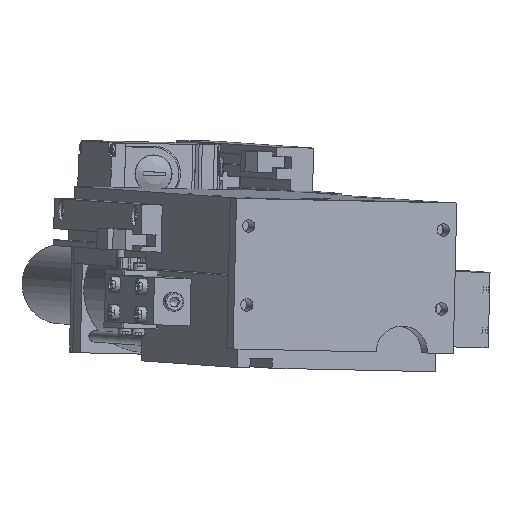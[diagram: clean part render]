
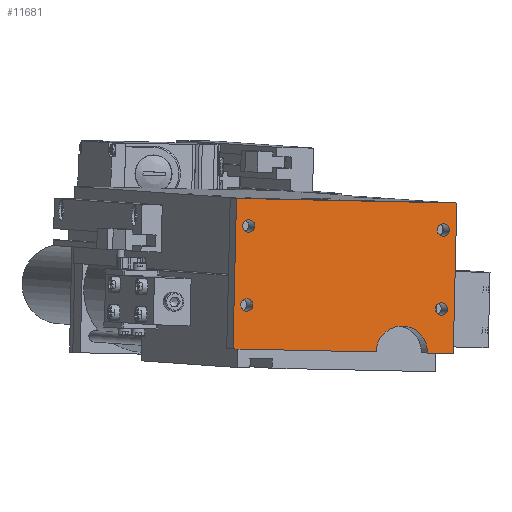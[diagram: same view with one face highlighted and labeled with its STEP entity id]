
A CAD part, front view. The second image highlights one B-rep face of the part: STEP entity #11681.
In plain terms, the highlighted planar face has unit normal (0.222, -0.975, -0.016).
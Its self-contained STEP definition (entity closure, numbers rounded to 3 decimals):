
#11345=CARTESIAN_POINT('',(87.14,-129.59,95.102));
#11346=VERTEX_POINT('',#11345);
#11347=CARTESIAN_POINT('',(83.9,-130.327,95.17));
#11348=DIRECTION('',(-0.222,0.975,0.016));
#11349=DIRECTION('',(0.975,0.222,-0.02));
#11350=AXIS2_PLACEMENT_3D('',#11347,#11348,#11349);
#11351=CIRCLE('',#11350,3.324);
#11352=EDGE_CURVE('',#11346,#11346,#11351,.T.);
#11386=CARTESIAN_POINT('',(-16.195,-153.109,97.268));
#11387=VERTEX_POINT('',#11386);
#11388=CARTESIAN_POINT('',(-19.435,-153.846,97.336));
#11389=DIRECTION('',(-0.222,0.975,0.016));
#11390=DIRECTION('',(0.975,0.222,-0.02));
#11391=AXIS2_PLACEMENT_3D('',#11388,#11389,#11390);
#11392=CIRCLE('',#11391,3.324);
#11393=EDGE_CURVE('',#11387,#11387,#11392,.T.);
#11443=CARTESIAN_POINT('',(88.122,-130.038,137.088));
#11444=VERTEX_POINT('',#11443);
#11445=CARTESIAN_POINT('',(84.882,-130.776,137.156));
#11446=DIRECTION('',(-0.222,0.975,0.016));
#11447=DIRECTION('',(0.975,0.222,-0.02));
#11448=AXIS2_PLACEMENT_3D('',#11445,#11446,#11447);
#11449=CIRCLE('',#11448,3.324);
#11450=EDGE_CURVE('',#11444,#11444,#11449,.T.);
#11492=CARTESIAN_POINT('',(-15.214,-153.557,139.254));
#11493=VERTEX_POINT('',#11492);
#11494=CARTESIAN_POINT('',(-18.453,-154.295,139.322));
#11495=DIRECTION('',(-0.222,0.975,0.016));
#11496=DIRECTION('',(0.975,0.222,-0.02));
#11497=AXIS2_PLACEMENT_3D('',#11494,#11495,#11496);
#11498=CIRCLE('',#11497,3.324);
#11499=EDGE_CURVE('',#11493,#11493,#11498,.T.);
#11509=CARTESIAN_POINT('',(92.045,-129.378,151.509));
#11510=VERTEX_POINT('',#11509);
#11511=CARTESIAN_POINT('',(90.175,-128.523,71.535));
#11512=VERTEX_POINT('',#11511);
#11513=CARTESIAN_POINT('',(92.045,-129.378,151.509));
#11514=DIRECTION('',(-0.023,0.011,-1.));
#11515=VECTOR('',#11514,80.0);
#11516=LINE('',#11513,#11515);
#11517=EDGE_CURVE('',#11510,#11512,#11516,.T.);
#11540=CARTESIAN_POINT('',(76.526,-131.629,71.821));
#11541=VERTEX_POINT('',#11540);
#11542=CARTESIAN_POINT('',(90.175,-128.523,71.535));
#11543=DIRECTION('',(-0.975,-0.222,0.02));
#11544=VECTOR('',#11543,14.);
#11545=LINE('',#11542,#11544);
#11546=EDGE_CURVE('',#11512,#11541,#11545,.T.);
#11564=CARTESIAN_POINT('',(49.23,-137.842,72.393));
#11565=VERTEX_POINT('',#11564);
#11566=CARTESIAN_POINT('',(62.878,-134.736,72.107));
#11567=DIRECTION('',(0.222,-0.975,-0.016));
#11568=DIRECTION('',(0.975,0.222,-0.02));
#11569=AXIS2_PLACEMENT_3D('',#11566,#11567,#11568);
#11570=CIRCLE('',#11569,14.);
#11571=EDGE_CURVE('',#11541,#11565,#11570,.T.);
#11589=CARTESIAN_POINT('',(-26.809,-155.148,73.986));
#11590=VERTEX_POINT('',#11589);
#11591=CARTESIAN_POINT('',(49.23,-137.842,72.393));
#11592=DIRECTION('',(-0.975,-0.222,0.02));
#11593=VECTOR('',#11592,78.0);
#11594=LINE('',#11591,#11593);
#11595=EDGE_CURVE('',#11565,#11590,#11594,.T.);
#11613=CARTESIAN_POINT('',(-24.939,-156.003,153.96));
#11614=VERTEX_POINT('',#11613);
#11615=CARTESIAN_POINT('',(-26.809,-155.148,73.986));
#11616=DIRECTION('',(0.023,-0.011,1.));
#11617=VECTOR('',#11616,80.0);
#11618=LINE('',#11615,#11617);
#11619=EDGE_CURVE('',#11590,#11614,#11618,.T.);
#11637=CARTESIAN_POINT('',(-24.939,-156.003,153.96));
#11638=DIRECTION('',(0.975,0.222,-0.02));
#11639=VECTOR('',#11638,120.);
#11640=LINE('',#11637,#11639);
#11641=EDGE_CURVE('',#11614,#11510,#11640,.T.);
#11656=CARTESIAN_POINT('',(33.801,-141.983,112.035));
#11657=DIRECTION('',(0.222,-0.975,-0.016));
#11658=DIRECTION('',(0.975,0.222,-0.02));
#11659=AXIS2_PLACEMENT_3D('',#11656,#11657,#11658);
#11660=PLANE('',#11659);
#11661=ORIENTED_EDGE('',*,*,#11517,.F.);
#11662=ORIENTED_EDGE('',*,*,#11641,.F.);
#11663=ORIENTED_EDGE('',*,*,#11619,.F.);
#11664=ORIENTED_EDGE('',*,*,#11595,.F.);
#11665=ORIENTED_EDGE('',*,*,#11571,.F.);
#11666=ORIENTED_EDGE('',*,*,#11546,.F.);
#11667=EDGE_LOOP('',(#11661,#11662,#11663,#11664,#11665,#11666));
#11668=FACE_OUTER_BOUND('',#11667,.T.);
#11669=ORIENTED_EDGE('',*,*,#11352,.T.);
#11670=EDGE_LOOP('',(#11669));
#11671=FACE_BOUND('',#11670,.T.);
#11672=ORIENTED_EDGE('',*,*,#11393,.T.);
#11673=EDGE_LOOP('',(#11672));
#11674=FACE_BOUND('',#11673,.T.);
#11675=ORIENTED_EDGE('',*,*,#11450,.T.);
#11676=EDGE_LOOP('',(#11675));
#11677=FACE_BOUND('',#11676,.T.);
#11678=ORIENTED_EDGE('',*,*,#11499,.T.);
#11679=EDGE_LOOP('',(#11678));
#11680=FACE_BOUND('',#11679,.T.);
#11681=ADVANCED_FACE('',(#11668,#11671,#11674,#11677,#11680),#11660,.T.);
